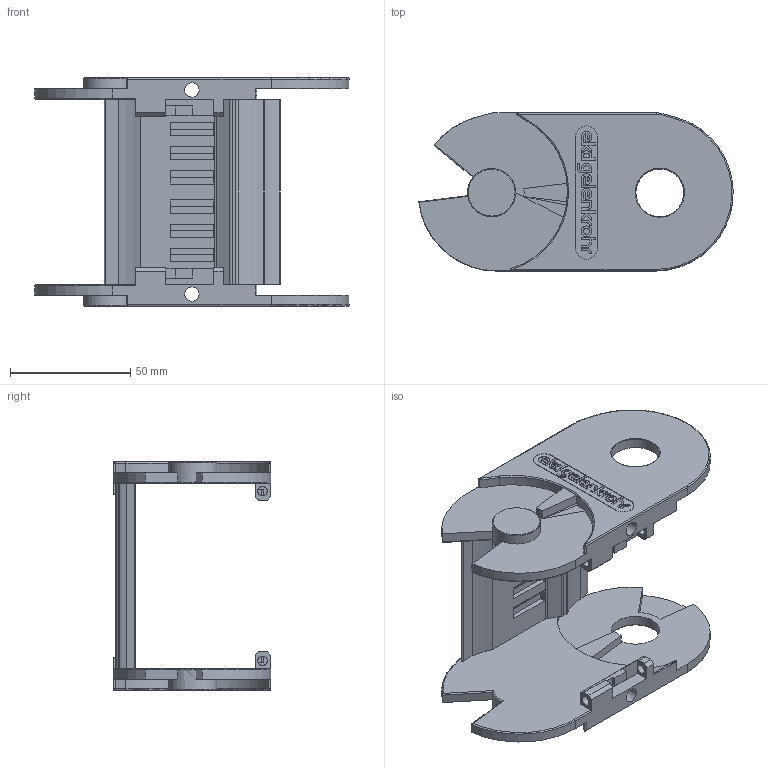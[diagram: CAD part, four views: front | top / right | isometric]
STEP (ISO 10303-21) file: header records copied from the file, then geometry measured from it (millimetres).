
FILE_DESCRIPTION((''),'2;1');
FILE_NAME('C:\Uebbing\PARAMETERKETTEN\KOLIBRI\Kol_65_095_5\Kol_65_095_5 Lasche.stp','2012-03-06T08:31:30',('Uebbing'),(''),'Autodesk Inventor 10','Autodesk Inventor 10','');
FILE_SCHEMA(('AUTOMOTIVE_DESIGN { 1 0 10303 214 1 1 1 1 }'));
Length unit declared in the file: millimetre
Products named in the file (1): Kol_65_095_5 Lasche
Bounding box: 130.76 x 65.7 x 95 mm (x, y, z)
Volume: 88309.4 mm3; surface area: 51991.3 mm2
Topology: 1 solids, 1 shells, 402 faces, 1102 edges, 707 vertices
Faces by surface type: plane 178, bspline 135, cylinder 77, torus 9, sphere 2, cone 1
Full cylindrical faces by diameter (mm): 2.514 x1, 4 x2, 4.414 x1, 6 x2, 20 x2
Entity records: 13399 total; most frequent: CARTESIAN_POINT 3540, ORIENTED_EDGE 2146, DIRECTION 1853, EDGE_CURVE 1073, VECTOR 781, LINE 781, VERTEX_POINT 698, AXIS2_PLACEMENT_3D 536
